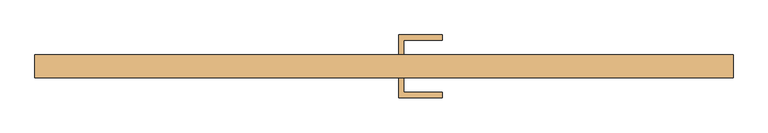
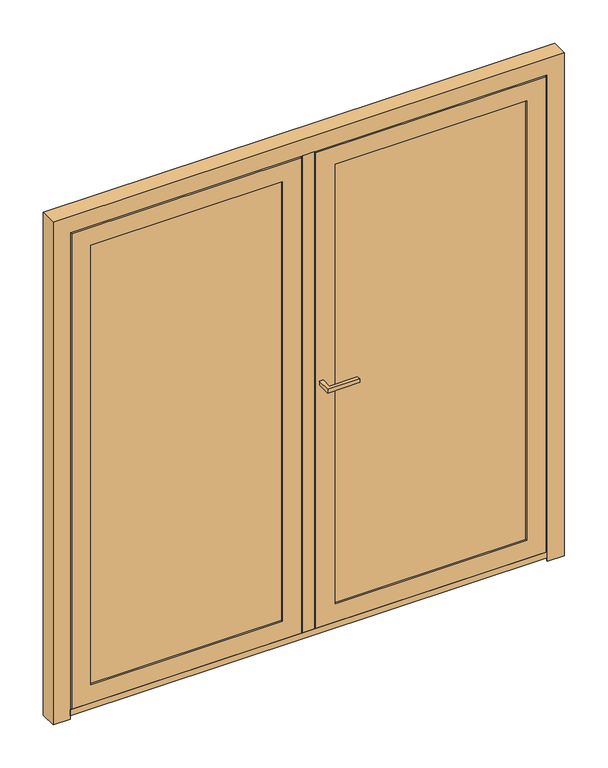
"""IFC4 building model written with IfcOpenShell, lengths in millimetres: door geometry, Reynaers_CS 77_Door_Miter_Inward Opening_Double Vent : Reynaers_CS 77_Door_Inward Opening_Double Vent."""

from ifc_helpers import new_model, si_unit, frame, origin, place, context, project, spatial, polyline, outline, extrude, faceted_brep, source, transform, mapped, element, save


def door_6b16127b(model_context):
    return source(origin(), model_context, "Body", "SolidModel", [
        extrude(outline(polyline([(42.5, -80.0), (57.5, -80.0), (57.5, -122.5), (170.0, -122.5), (170.0, -137.5), (42.5, -137.5), (42.5, -80.0)])), frame((0.0, 0.0, 1062.5), z_axis=(0.0, 0.0, 1.0), x_axis=(1.0, 0.0, 0.0)), (0.0, 0.0, 1.0), 15.0),
        extrude(outline(polyline([(42.5, -12.0), (42.5, 45.5), (170.0, 45.5), (170.0, 30.5), (57.5, 30.5), (57.5, -12.0), (42.5, -12.0)])), frame((0.0, 0.0, 1062.5), z_axis=(0.0, 0.0, 1.0), x_axis=(1.0, 0.0, 0.0)), (0.0, 0.0, 1.0), 15.0),
        extrude(outline(polyline([(1994.0, 81.0), (92.0, 81.0), (92.0, 894.0), (1994.0, 894.0), (1994.0, 81.0)]), holes=[polyline([(116.0, 105.0), (1970.0, 105.0), (1970.0, 870.0), (116.0, 870.0), (116.0, 105.0)])]), frame((0.0, -45.0, 0.0), z_axis=(0.0, 1.0, 0.0), x_axis=(0.0, 0.0, 1.0)), (0.0, 0.0, 1.0), 33.0),
        extrude(outline(polyline([(1994.0, -81.0), (1994.0, -894.0), (92.0, -894.0), (92.0, -81.0), (1994.0, -81.0)]), holes=[polyline([(1970.0, -870.0), (1970.0, -105.0), (116.0, -105.0), (116.0, -870.0), (1970.0, -870.0)])]), frame((0.0, -45.0, 0.0), z_axis=(0.0, 1.0, 0.0), x_axis=(0.0, 0.0, 1.0)), (0.0, 0.0, 1.0), 33.0),
        extrude(outline(polyline([(889.0, -72.0), (86.0, -72.0), (86.0, -45.0), (889.0, -45.0), (889.0, -72.0)])), frame((0.0, 0.0, 97.0), z_axis=(0.0, 0.0, 1.0), x_axis=(1.0, 0.0, 0.0)), (0.0, 0.0, 1.0), 1892.0),
        extrude(outline(polyline([(-86.0, -45.0), (-86.0, -72.0), (-889.0, -72.0), (-889.0, -45.0), (-86.0, -45.0)])), frame((0.0, 0.0, 97.0), z_axis=(0.0, 0.0, 1.0), x_axis=(1.0, 0.0, 0.0)), (0.0, 0.0, 1.0), 1892.0),
        faceted_brep([(-18.0, -70.2, 2057.0), (-18.0, -70.2, 29.0), (-18.0, -15.8, 29.0), (-18.0, -15.8, 2057.0), (-3.0, -15.8, 2072.0), (-972.0, -15.8, 2072.0), (-972.0, -15.8, 14.0), (-3.0, -15.8, 14.0), (-957.0, -15.8, 2057.0), (-957.0, -15.8, 29.0), (-957.0, -70.2, 29.0), (-957.0, -70.2, 2057.0), (-946.0, -70.2, 2046.0), (-29.0, -70.2, 2046.0), (-29.0, -70.2, 40.0), (-946.0, -70.2, 40.0), (-29.0, -80.0, 2046.0), (-29.0, -80.0, 40.0), (-946.0, -80.0, 40.0), (-946.0, -80.0, 2046.0), (-870.0, -80.0, 1970.0), (-105.0, -80.0, 1970.0), (-105.0, -80.0, 116.0), (-870.0, -80.0, 116.0), (-105.0, -72.0, 1970.0), (-105.0, -72.0, 116.0), (-870.0, -72.0, 116.0), (-895.0, -72.0, 1995.0), (-80.0, -72.0, 1995.0), (-80.0, -72.0, 91.0), (-895.0, -72.0, 91.0), (-870.0, -72.0, 1970.0), (-80.0, -12.0, 1995.0), (-80.0, -12.0, 91.0), (-895.0, -12.0, 91.0), (-972.0, -12.0, 2072.0), (-3.0, -12.0, 2072.0), (-3.0, -12.0, 14.0), (-972.0, -12.0, 14.0), (-895.0, -12.0, 1995.0)], [[[0, 1, 2, 3]], [[4, 5, 6, 7], [8, 3, 2, 9]], [[1, 10, 9, 2]], [[0, 11, 10, 1], [12, 13, 14, 15]], [[16, 17, 14, 13]], [[17, 18, 15, 14]], [[16, 19, 18, 17], [20, 21, 22, 23]], [[24, 25, 22, 21]], [[25, 26, 23, 22]], [[27, 28, 29, 30], [24, 31, 26, 25]], [[32, 33, 29, 28]], [[33, 34, 30, 29]], [[35, 36, 37, 38], [32, 39, 34, 33]], [[4, 7, 37, 36]], [[7, 6, 38, 37]], [[10, 11, 8, 9]], [[18, 19, 12, 15]], [[26, 31, 20, 23]], [[34, 39, 27, 30]], [[6, 5, 35, 38]], [[11, 0, 3, 8]], [[19, 16, 13, 12]], [[31, 24, 21, 20]], [[39, 32, 28, 27]], [[5, 4, 36, 35]]]),
        extrude(outline(polyline([(23.0, -80.0), (-23.0, -80.0), (-23.0, -76.2), (-14.2, -76.2), (-14.2, -20.8), (8.0, -20.8), (8.0, -76.2), (23.0, -76.2), (23.0, -80.0)])), frame((0.0, 0.0, 40.0), z_axis=(0.0, 0.0, 1.0), x_axis=(1.0, 0.0, 0.0)), (0.0, 0.0, 1.0), 2012.0),
        faceted_brep([(972.0, -15.8, 14.0), (3.0, -15.8, 14.0), (3.0, -12.0, 14.0), (972.0, -12.0, 14.0), (3.0, -15.8, 2072.0), (3.0, -12.0, 2072.0), (972.0, -12.0, 2072.0), (80.0, -12.0, 1995.0), (80.0, -12.0, 91.0), (895.0, -12.0, 91.0), (895.0, -12.0, 1995.0), (972.0, -15.8, 2072.0), (18.0, -15.8, 29.0), (18.0, -15.8, 2057.0), (957.0, -15.8, 2057.0), (957.0, -15.8, 29.0), (957.0, -70.2, 29.0), (18.0, -70.2, 29.0), (18.0, -70.2, 2057.0), (957.0, -70.2, 2057.0), (29.0, -70.2, 40.0), (29.0, -70.2, 2046.0), (946.0, -70.2, 2046.0), (946.0, -70.2, 40.0), (946.0, -80.0, 40.0), (29.0, -80.0, 40.0), (29.0, -80.0, 2046.0), (946.0, -80.0, 2046.0), (105.0, -80.0, 116.0), (105.0, -80.0, 1970.0), (870.0, -80.0, 1970.0), (870.0, -80.0, 116.0), (870.0, -72.0, 116.0), (105.0, -72.0, 116.0), (105.0, -72.0, 1970.0), (80.0, -72.0, 91.0), (80.0, -72.0, 1995.0), (895.0, -72.0, 1995.0), (895.0, -72.0, 91.0), (870.0, -72.0, 1970.0)], [[[0, 1, 2, 3]], [[1, 4, 5, 2]], [[2, 5, 6, 3], [7, 8, 9, 10]], [[4, 1, 0, 11], [12, 13, 14, 15]], [[16, 17, 12, 15]], [[17, 18, 13, 12]], [[18, 17, 16, 19], [20, 21, 22, 23]], [[24, 25, 20, 23]], [[25, 26, 21, 20]], [[26, 25, 24, 27], [28, 29, 30, 31]], [[32, 33, 28, 31]], [[33, 34, 29, 28]], [[35, 36, 37, 38], [34, 33, 32, 39]], [[9, 8, 35, 38]], [[8, 7, 36, 35]], [[11, 0, 3, 6]], [[19, 16, 15, 14]], [[27, 24, 23, 22]], [[39, 32, 31, 30]], [[10, 9, 38, 37]], [[4, 11, 6, 5]], [[18, 19, 14, 13]], [[26, 27, 22, 21]], [[34, 39, 30, 29]], [[7, 10, 37, 36]]]),
        faceted_brep([(-952.0, -76.2, 0.0), (-952.0, -80.0, 0.0), (-1020.0, -80.0, 0.0), (-1020.0, -12.0, 0.0), (-978.0, -12.0, 0.0), (-978.0, -21.8, 0.0), (-967.0, -21.8, 0.0), (-967.0, -76.2, 0.0), (-967.0, -76.2, 2067.0), (967.0, -76.2, 2067.0), (967.0, -76.2, 0.0), (952.0, -76.2, 0.0), (952.0, -76.2, 2052.0), (-952.0, -76.2, 2052.0), (-967.0, -21.8, 2067.0), (-978.0, -21.8, 2078.0), (978.0, -21.8, 2078.0), (978.0, -21.8, 0.0), (967.0, -21.8, 0.0), (967.0, -21.8, 2067.0), (-978.0, -12.0, 2078.0), (-1020.0, -12.0, 2120.0), (1020.0, -12.0, 2120.0), (1020.0, -12.0, 0.0), (978.0, -12.0, 0.0), (978.0, -12.0, 2078.0), (-1020.0, -80.0, 2120.0), (-952.0, -80.0, 2052.0), (952.0, -80.0, 2052.0), (952.0, -80.0, 0.0), (1020.0, -80.0, 0.0), (1020.0, -80.0, 2120.0)], [[[0, 1, 2, 3, 4, 5, 6, 7]], [[7, 8, 9, 10, 11, 12, 13, 0]], [[6, 14, 8, 7]], [[5, 15, 16, 17, 18, 19, 14, 6]], [[4, 20, 15, 5]], [[3, 21, 22, 23, 24, 25, 20, 4]], [[2, 26, 21, 3]], [[1, 27, 28, 29, 30, 31, 26, 2]], [[0, 13, 27, 1]], [[11, 10, 18, 17, 24, 23, 30, 29]], [[12, 11, 29, 28]], [[31, 30, 23, 22]], [[25, 24, 17, 16]], [[19, 18, 10, 9]], [[14, 19, 9, 8]], [[20, 25, 16, 15]], [[26, 31, 22, 21]], [[13, 12, 28, 27]]]),
        extrude(outline(polyline([(952.0, -44.8), (-952.0, -44.8), (-952.0, -29.8), (952.0, -29.8), (952.0, -44.8)])), frame((0.0, 0.0, 1.0), z_axis=(0.0, 0.0, 1.0), x_axis=(1.0, 0.0, 0.0)), (0.0, 0.0, 1.0), 28.0),
        extrude(outline(polyline([(952.0, -80.0), (-952.0, -80.0), (-952.0, -76.2), (952.0, -76.2), (952.0, -80.0)])), frame((0.0, 0.0, 14.0), z_axis=(0.0, 0.0, 1.0), x_axis=(1.0, 0.0, 0.0)), (0.0, 0.0, 1.0), 26.0),
    ])


if __name__ == "__main__":
    model = new_model("IFC4")
    model_context = context("Model", 3, world=origin())
    ifc_project = project(units=[si_unit("LENGTHUNIT", "METRE", prefix="MILLI")], contexts=[model_context])
    site = spatial("IfcSite", under=ifc_project)
    building = spatial("IfcBuilding", under=site)
    placement = place(None, origin())
    door_shape = door_6b16127b(model_context)
    element("IfcDoor", 1, ObjectType="Reynaers_CS 77_Door_Miter_Inward Opening_Double Vent : Reynaers_CS 77_Door_Inward Opening_Double Vent", at=placement, inside=building, context=model_context, shape_type="MappedRepresentation", body=[
        mapped(door_shape, transform((0.0, 0.0, 0.0), x_axis=(1.0, 0.0, 0.0), y_axis=(0.0, 1.0, 0.0), z_axis=(0.0, 0.0, 1.0))),
    ])
    save(model, "model.ifc")
